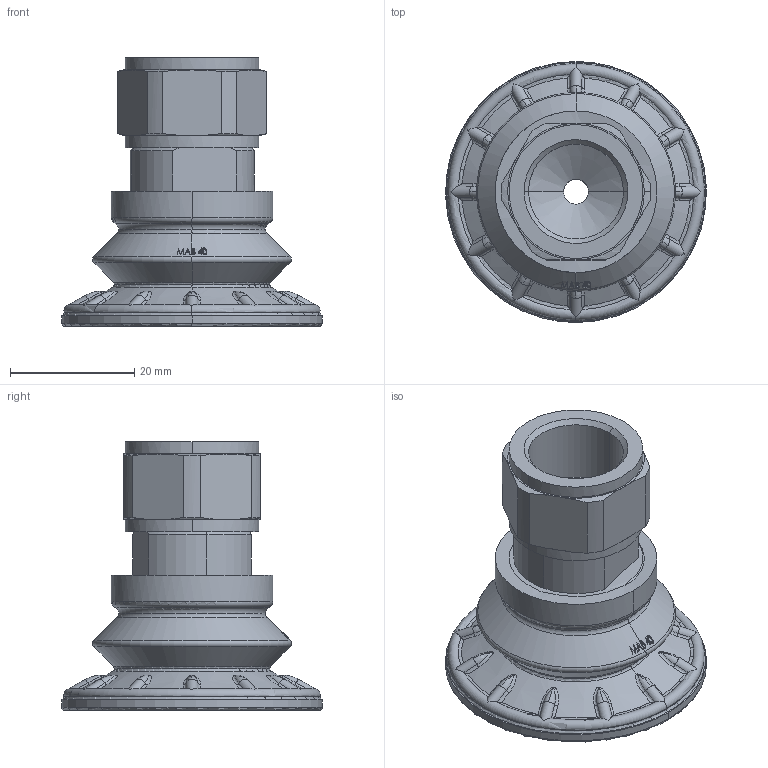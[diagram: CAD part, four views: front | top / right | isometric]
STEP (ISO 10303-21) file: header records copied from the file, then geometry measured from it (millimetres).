
FILE_DESCRIPTION (( 'STEP AP203' ), '1' );
FILE_NAME ('ZSAB40N-F03.STEP', '2022-03-31T14:25:47', ( '' ), ( '' ), 'SwSTEP 2.0', 'SolidWorks 2019', '' );
FILE_SCHEMA (( 'CONFIG_CONTROL_DESIGN' ));
Length unit declared in the file: millimetre
Products named in the file (1): ZSAB40N-F03
Bounding box: 41.98 x 42 x 43.27 mm (x, y, z)
Surface area: 8085.5 mm2 (no closed solid volume)
Topology: 0 solids, 3 shells, 238 faces, 584 edges, 363 vertices
Faces by surface type: bspline 85, torus 72, cylinder 36, cone 27, plane 18
Entity records: 14582 total; most frequent: CARTESIAN_POINT 10451, ORIENTED_EDGE 1153, EDGE_CURVE 584, B_SPLINE_CURVE_WITH_KNOTS 548, VERTEX_POINT 363, DIRECTION 308, EDGE_LOOP 255, ADVANCED_FACE 238
